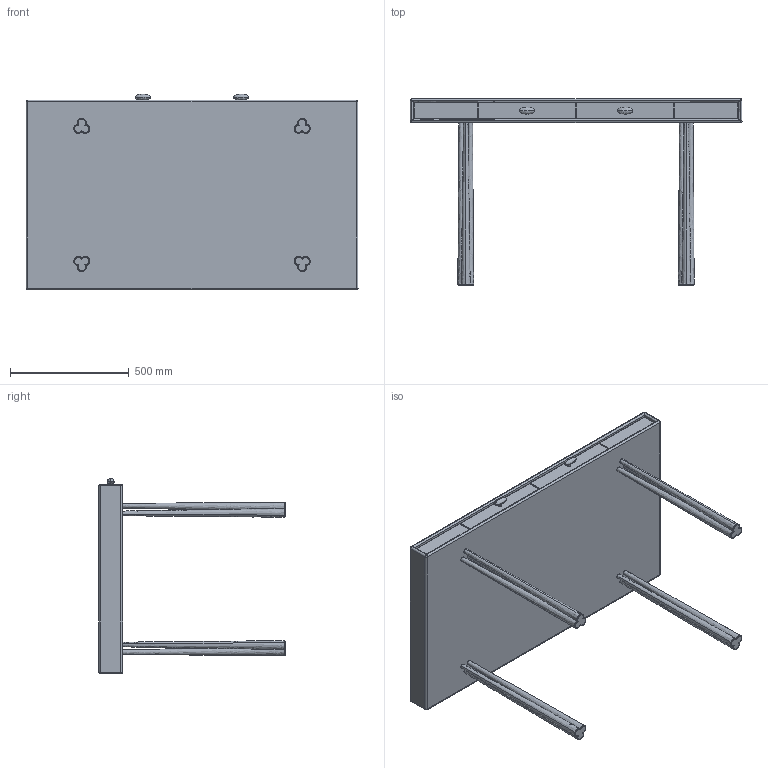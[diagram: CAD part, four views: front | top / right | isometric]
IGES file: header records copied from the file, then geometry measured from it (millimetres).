
Start section: SolidWorks IGES file using analytic representation for surfaces
Global section: file name: C:\Users\David.BDLE\Desktop\060 Desk_vc\060 Desk_vc_secretaria prmt.IGS; native system: SolidWorks 2016; preprocessor: SolidWorks 2016; author: David; date: 200319.151806; units: millimetre
Bounding box: 1400 x 785 x 825 mm (x, y, z)
Surface area: 3424162.8 mm2 (no closed solid volume)
Topology: 0 solids, 0 shells, 238 faces, 3069 edges, 3022 vertices
Faces by surface type: bspline 120, revolution 118
